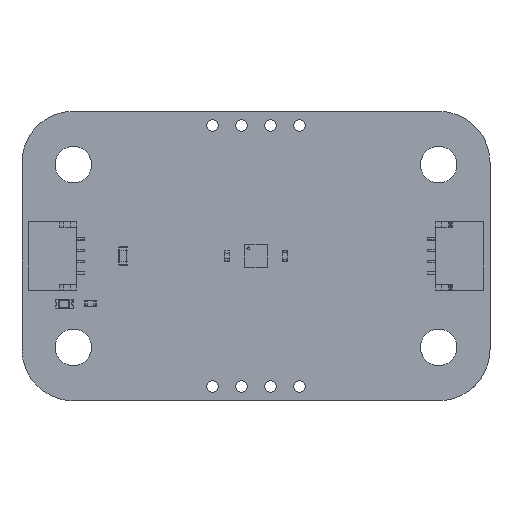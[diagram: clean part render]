
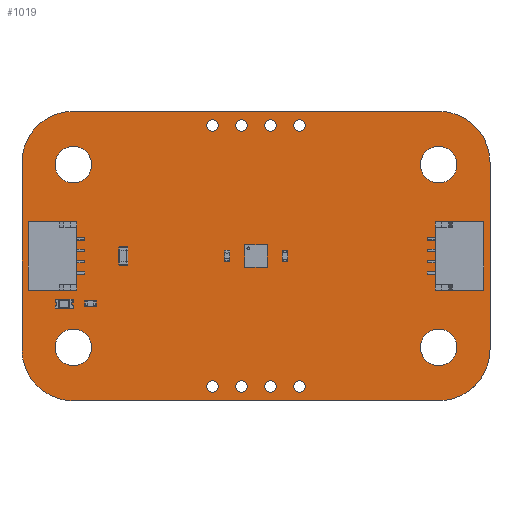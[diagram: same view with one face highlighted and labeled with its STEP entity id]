
A CAD part, top view. The second image highlights one B-rep face of the part: STEP entity #1019.
In plain terms, the highlighted planar face has unit normal (0, 0, 1).
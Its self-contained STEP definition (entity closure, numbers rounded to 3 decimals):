
#84 = VERTEX_POINT('',#85);
#85 = CARTESIAN_POINT('',(0.,20.86,1.606));
#91 = EDGE_CURVE('',#84,#92,#94,.T.);
#92 = VERTEX_POINT('',#93);
#93 = CARTESIAN_POINT('',(0.,4.5,1.606));
#94 = LINE('',#95,#96);
#95 = CARTESIAN_POINT('',(0.,20.86,1.606));
#96 = VECTOR('',#97,1.);
#97 = DIRECTION('',(0.,-1.,0.));
#124 = VERTEX_POINT('',#125);
#125 = CARTESIAN_POINT('',(0.,20.86,
    1.606));
#131 = EDGE_CURVE('',#124,#84,#132,.T.);
#132 = CIRCLE('',#133,4.5);
#133 = AXIS2_PLACEMENT_3D('',#134,#135,#136);
#134 = CARTESIAN_POINT('',(4.5,20.86,1.606));
#135 = DIRECTION('',(0.,0.,1.));
#136 = DIRECTION('',(0.,1.,-0.));
#157 = VERTEX_POINT('',#158);
#158 = CARTESIAN_POINT('',(0.287,22.44,1.606));
#164 = EDGE_CURVE('',#157,#124,#165,.T.);
#165 = CIRCLE('',#166,4.5);
#166 = AXIS2_PLACEMENT_3D('',#167,#168,#169);
#167 = CARTESIAN_POINT('',(4.5,20.86,1.606));
#168 = DIRECTION('',(0.,0.,1.));
#169 = DIRECTION('',(0.,1.,-0.));
#190 = VERTEX_POINT('',#191);
#191 = CARTESIAN_POINT('',(1.398,24.12,1.606));
#197 = EDGE_CURVE('',#190,#157,#198,.T.);
#198 = CIRCLE('',#199,4.5);
#199 = AXIS2_PLACEMENT_3D('',#200,#201,#202);
#200 = CARTESIAN_POINT('',(4.5,20.86,1.606));
#201 = DIRECTION('',(0.,0.,1.));
#202 = DIRECTION('',(1.,0.,-0.));
#223 = VERTEX_POINT('',#224);
#224 = CARTESIAN_POINT('',(4.5,25.36,1.606));
#230 = EDGE_CURVE('',#223,#190,#231,.T.);
#231 = CIRCLE('',#232,4.5);
#232 = AXIS2_PLACEMENT_3D('',#233,#234,#235);
#233 = CARTESIAN_POINT('',(4.5,20.86,1.606));
#234 = DIRECTION('',(0.,0.,1.));
#235 = DIRECTION('',(0.,1.,-0.));
#256 = VERTEX_POINT('',#257);
#257 = CARTESIAN_POINT('',(36.5,25.36,1.606));
#263 = EDGE_CURVE('',#256,#223,#264,.T.);
#264 = LINE('',#265,#266);
#265 = CARTESIAN_POINT('',(36.5,25.36,1.606));
#266 = VECTOR('',#267,1.);
#267 = DIRECTION('',(-1.,0.,0.));
#287 = VERTEX_POINT('',#288);
#288 = CARTESIAN_POINT('',(41.,20.86,1.606));
#294 = EDGE_CURVE('',#287,#256,#295,.T.);
#295 = CIRCLE('',#296,4.5);
#296 = AXIS2_PLACEMENT_3D('',#297,#298,#299);
#297 = CARTESIAN_POINT('',(36.5,20.86,1.606));
#298 = DIRECTION('',(0.,0.,1.));
#299 = DIRECTION('',(1.,0.,0.));
#320 = VERTEX_POINT('',#321);
#321 = CARTESIAN_POINT('',(41.,4.5,1.606));
#327 = EDGE_CURVE('',#320,#287,#328,.T.);
#328 = LINE('',#329,#330);
#329 = CARTESIAN_POINT('',(41.,4.5,1.606));
#330 = VECTOR('',#331,1.);
#331 = DIRECTION('',(0.,1.,0.));
#351 = VERTEX_POINT('',#352);
#352 = CARTESIAN_POINT('',(40.463,2.368,1.606));
#358 = EDGE_CURVE('',#351,#320,#359,.T.);
#359 = CIRCLE('',#360,4.5);
#360 = AXIS2_PLACEMENT_3D('',#361,#362,#363);
#361 = CARTESIAN_POINT('',(36.5,4.5,1.606));
#362 = DIRECTION('',(0.,0.,1.));
#363 = DIRECTION('',(0.,-1.,0.));
#384 = VERTEX_POINT('',#385);
#385 = CARTESIAN_POINT('',(37.893,0.221,1.606));
#391 = EDGE_CURVE('',#384,#351,#392,.T.);
#392 = CIRCLE('',#393,4.5);
#393 = AXIS2_PLACEMENT_3D('',#394,#395,#396);
#394 = CARTESIAN_POINT('',(36.5,4.5,1.606));
#395 = DIRECTION('',(0.,0.,1.));
#396 = DIRECTION('',(1.,0.,-0.));
#417 = VERTEX_POINT('',#418);
#418 = CARTESIAN_POINT('',(36.5,0.,
    1.606));
#424 = EDGE_CURVE('',#417,#384,#425,.T.);
#425 = CIRCLE('',#426,4.5);
#426 = AXIS2_PLACEMENT_3D('',#427,#428,#429);
#427 = CARTESIAN_POINT('',(36.5,4.5,1.606));
#428 = DIRECTION('',(0.,0.,1.));
#429 = DIRECTION('',(0.,-1.,0.));
#450 = VERTEX_POINT('',#451);
#451 = CARTESIAN_POINT('',(4.5,0.,1.606));
#457 = EDGE_CURVE('',#450,#417,#458,.T.);
#458 = LINE('',#459,#460);
#459 = CARTESIAN_POINT('',(4.5,0.,1.606));
#460 = VECTOR('',#461,1.);
#461 = DIRECTION('',(1.,0.,0.));
#481 = VERTEX_POINT('',#482);
#482 = CARTESIAN_POINT('',(3.005,0.256,1.606));
#488 = EDGE_CURVE('',#481,#450,#489,.T.);
#489 = CIRCLE('',#490,4.5);
#490 = AXIS2_PLACEMENT_3D('',#491,#492,#493);
#491 = CARTESIAN_POINT('',(4.5,4.5,1.606));
#492 = DIRECTION('',(0.,0.,1.));
#493 = DIRECTION('',(-1.,0.,0.));
#514 = VERTEX_POINT('',#515);
#515 = CARTESIAN_POINT('',(0.063,3.75,1.606)
  );
#521 = EDGE_CURVE('',#514,#481,#522,.T.);
#522 = CIRCLE('',#523,4.5);
#523 = AXIS2_PLACEMENT_3D('',#524,#525,#526);
#524 = CARTESIAN_POINT('',(4.5,4.5,1.606));
#525 = DIRECTION('',(0.,0.,1.));
#526 = DIRECTION('',(1.,0.,-0.));
#545 = EDGE_CURVE('',#92,#514,#546,.T.);
#546 = CIRCLE('',#547,4.5);
#547 = AXIS2_PLACEMENT_3D('',#548,#549,#550);
#548 = CARTESIAN_POINT('',(4.5,4.5,1.606));
#549 = DIRECTION('',(0.,0.,1.));
#550 = DIRECTION('',(-1.,0.,0.));
#571 = VERTEX_POINT('',#572);
#572 = CARTESIAN_POINT('',(6.1,4.68,1.606));
#578 = EDGE_CURVE('',#571,#571,#579,.T.);
#579 = CIRCLE('',#580,1.6);
#580 = AXIS2_PLACEMENT_3D('',#581,#582,#583);
#581 = CARTESIAN_POINT('',(4.5,4.68,1.606));
#582 = DIRECTION('',(0.,0.,1.));
#583 = DIRECTION('',(1.,0.,-0.));
#604 = VERTEX_POINT('',#605);
#605 = CARTESIAN_POINT('',(17.19,1.25,1.606));
#611 = EDGE_CURVE('',#604,#604,#612,.T.);
#612 = CIRCLE('',#613,0.5);
#613 = AXIS2_PLACEMENT_3D('',#614,#615,#616);
#614 = CARTESIAN_POINT('',(16.69,1.25,1.606));
#615 = DIRECTION('',(0.,0.,1.));
#616 = DIRECTION('',(1.,0.,-0.));
#637 = VERTEX_POINT('',#638);
#638 = CARTESIAN_POINT('',(19.73,1.25,1.606));
#644 = EDGE_CURVE('',#637,#637,#645,.T.);
#645 = CIRCLE('',#646,0.5);
#646 = AXIS2_PLACEMENT_3D('',#647,#648,#649);
#647 = CARTESIAN_POINT('',(19.23,1.25,1.606));
#648 = DIRECTION('',(0.,0.,1.));
#649 = DIRECTION('',(1.,0.,-0.));
#670 = VERTEX_POINT('',#671);
#671 = CARTESIAN_POINT('',(22.27,1.25,1.606));
#677 = EDGE_CURVE('',#670,#670,#678,.T.);
#678 = CIRCLE('',#679,0.5);
#679 = AXIS2_PLACEMENT_3D('',#680,#681,#682);
#680 = CARTESIAN_POINT('',(21.77,1.25,1.606));
#681 = DIRECTION('',(0.,0.,1.));
#682 = DIRECTION('',(1.,0.,-0.));
#703 = VERTEX_POINT('',#704);
#704 = CARTESIAN_POINT('',(24.81,1.25,1.606));
#710 = EDGE_CURVE('',#703,#703,#711,.T.);
#711 = CIRCLE('',#712,0.5);
#712 = AXIS2_PLACEMENT_3D('',#713,#714,#715);
#713 = CARTESIAN_POINT('',(24.31,1.25,1.606));
#714 = DIRECTION('',(0.,0.,1.));
#715 = DIRECTION('',(1.,0.,-0.));
#736 = VERTEX_POINT('',#737);
#737 = CARTESIAN_POINT('',(38.1,4.68,1.606));
#743 = EDGE_CURVE('',#736,#736,#744,.T.);
#744 = CIRCLE('',#745,1.6);
#745 = AXIS2_PLACEMENT_3D('',#746,#747,#748);
#746 = CARTESIAN_POINT('',(36.5,4.68,1.606));
#747 = DIRECTION('',(0.,0.,1.));
#748 = DIRECTION('',(1.,0.,-0.));
#769 = VERTEX_POINT('',#770);
#770 = CARTESIAN_POINT('',(6.1,20.68,1.606));
#776 = EDGE_CURVE('',#769,#769,#777,.T.);
#777 = CIRCLE('',#778,1.6);
#778 = AXIS2_PLACEMENT_3D('',#779,#780,#781);
#779 = CARTESIAN_POINT('',(4.5,20.68,1.606));
#780 = DIRECTION('',(0.,0.,1.));
#781 = DIRECTION('',(1.,0.,-0.));
#802 = VERTEX_POINT('',#803);
#803 = CARTESIAN_POINT('',(17.19,24.11,1.606));
#809 = EDGE_CURVE('',#802,#802,#810,.T.);
#810 = CIRCLE('',#811,0.5);
#811 = AXIS2_PLACEMENT_3D('',#812,#813,#814);
#812 = CARTESIAN_POINT('',(16.69,24.11,1.606));
#813 = DIRECTION('',(0.,0.,1.));
#814 = DIRECTION('',(1.,0.,-0.));
#835 = VERTEX_POINT('',#836);
#836 = CARTESIAN_POINT('',(19.73,24.11,1.606));
#842 = EDGE_CURVE('',#835,#835,#843,.T.);
#843 = CIRCLE('',#844,0.5);
#844 = AXIS2_PLACEMENT_3D('',#845,#846,#847);
#845 = CARTESIAN_POINT('',(19.23,24.11,1.606));
#846 = DIRECTION('',(0.,0.,1.));
#847 = DIRECTION('',(1.,0.,-0.));
#868 = VERTEX_POINT('',#869);
#869 = CARTESIAN_POINT('',(22.27,24.11,1.606));
#875 = EDGE_CURVE('',#868,#868,#876,.T.);
#876 = CIRCLE('',#877,0.5);
#877 = AXIS2_PLACEMENT_3D('',#878,#879,#880);
#878 = CARTESIAN_POINT('',(21.77,24.11,1.606));
#879 = DIRECTION('',(0.,0.,1.));
#880 = DIRECTION('',(1.,0.,-0.));
#901 = VERTEX_POINT('',#902);
#902 = CARTESIAN_POINT('',(24.81,24.11,1.606));
#908 = EDGE_CURVE('',#901,#901,#909,.T.);
#909 = CIRCLE('',#910,0.5);
#910 = AXIS2_PLACEMENT_3D('',#911,#912,#913);
#911 = CARTESIAN_POINT('',(24.31,24.11,1.606));
#912 = DIRECTION('',(0.,0.,1.));
#913 = DIRECTION('',(1.,0.,-0.));
#934 = VERTEX_POINT('',#935);
#935 = CARTESIAN_POINT('',(38.1,20.68,1.606));
#941 = EDGE_CURVE('',#934,#934,#942,.T.);
#942 = CIRCLE('',#943,1.6);
#943 = AXIS2_PLACEMENT_3D('',#944,#945,#946);
#944 = CARTESIAN_POINT('',(36.5,20.68,1.606));
#945 = DIRECTION('',(0.,0.,1.));
#946 = DIRECTION('',(1.,0.,-0.));
#1019 = ADVANCED_FACE('',(#1020,#1037,#1040,#1043,#1046,#1049,#1052,
    #1055,#1058,#1061,#1064,#1067,#1070),#1073,.T.);
#1020 = FACE_BOUND('',#1021,.T.);
#1021 = EDGE_LOOP('',(#1022,#1023,#1024,#1025,#1026,#1027,#1028,#1029,
    #1030,#1031,#1032,#1033,#1034,#1035,#1036));
#1022 = ORIENTED_EDGE('',*,*,#91,.T.);
#1023 = ORIENTED_EDGE('',*,*,#545,.T.);
#1024 = ORIENTED_EDGE('',*,*,#521,.T.);
#1025 = ORIENTED_EDGE('',*,*,#488,.T.);
#1026 = ORIENTED_EDGE('',*,*,#457,.T.);
#1027 = ORIENTED_EDGE('',*,*,#424,.T.);
#1028 = ORIENTED_EDGE('',*,*,#391,.T.);
#1029 = ORIENTED_EDGE('',*,*,#358,.T.);
#1030 = ORIENTED_EDGE('',*,*,#327,.T.);
#1031 = ORIENTED_EDGE('',*,*,#294,.T.);
#1032 = ORIENTED_EDGE('',*,*,#263,.T.);
#1033 = ORIENTED_EDGE('',*,*,#230,.T.);
#1034 = ORIENTED_EDGE('',*,*,#197,.T.);
#1035 = ORIENTED_EDGE('',*,*,#164,.T.);
#1036 = ORIENTED_EDGE('',*,*,#131,.T.);
#1037 = FACE_BOUND('',#1038,.T.);
#1038 = EDGE_LOOP('',(#1039));
#1039 = ORIENTED_EDGE('',*,*,#578,.F.);
#1040 = FACE_BOUND('',#1041,.T.);
#1041 = EDGE_LOOP('',(#1042));
#1042 = ORIENTED_EDGE('',*,*,#611,.F.);
#1043 = FACE_BOUND('',#1044,.T.);
#1044 = EDGE_LOOP('',(#1045));
#1045 = ORIENTED_EDGE('',*,*,#644,.F.);
#1046 = FACE_BOUND('',#1047,.T.);
#1047 = EDGE_LOOP('',(#1048));
#1048 = ORIENTED_EDGE('',*,*,#677,.F.);
#1049 = FACE_BOUND('',#1050,.T.);
#1050 = EDGE_LOOP('',(#1051));
#1051 = ORIENTED_EDGE('',*,*,#710,.F.);
#1052 = FACE_BOUND('',#1053,.T.);
#1053 = EDGE_LOOP('',(#1054));
#1054 = ORIENTED_EDGE('',*,*,#743,.F.);
#1055 = FACE_BOUND('',#1056,.T.);
#1056 = EDGE_LOOP('',(#1057));
#1057 = ORIENTED_EDGE('',*,*,#776,.F.);
#1058 = FACE_BOUND('',#1059,.T.);
#1059 = EDGE_LOOP('',(#1060));
#1060 = ORIENTED_EDGE('',*,*,#809,.F.);
#1061 = FACE_BOUND('',#1062,.T.);
#1062 = EDGE_LOOP('',(#1063));
#1063 = ORIENTED_EDGE('',*,*,#842,.F.);
#1064 = FACE_BOUND('',#1065,.T.);
#1065 = EDGE_LOOP('',(#1066));
#1066 = ORIENTED_EDGE('',*,*,#875,.F.);
#1067 = FACE_BOUND('',#1068,.T.);
#1068 = EDGE_LOOP('',(#1069));
#1069 = ORIENTED_EDGE('',*,*,#908,.F.);
#1070 = FACE_BOUND('',#1071,.T.);
#1071 = EDGE_LOOP('',(#1072));
#1072 = ORIENTED_EDGE('',*,*,#941,.F.);
#1073 = PLANE('',#1074);
#1074 = AXIS2_PLACEMENT_3D('',#1075,#1076,#1077);
#1075 = CARTESIAN_POINT('',(20.5,12.68,1.606));
#1076 = DIRECTION('',(0.,0.,1.));
#1077 = DIRECTION('',(1.,0.,-0.));
